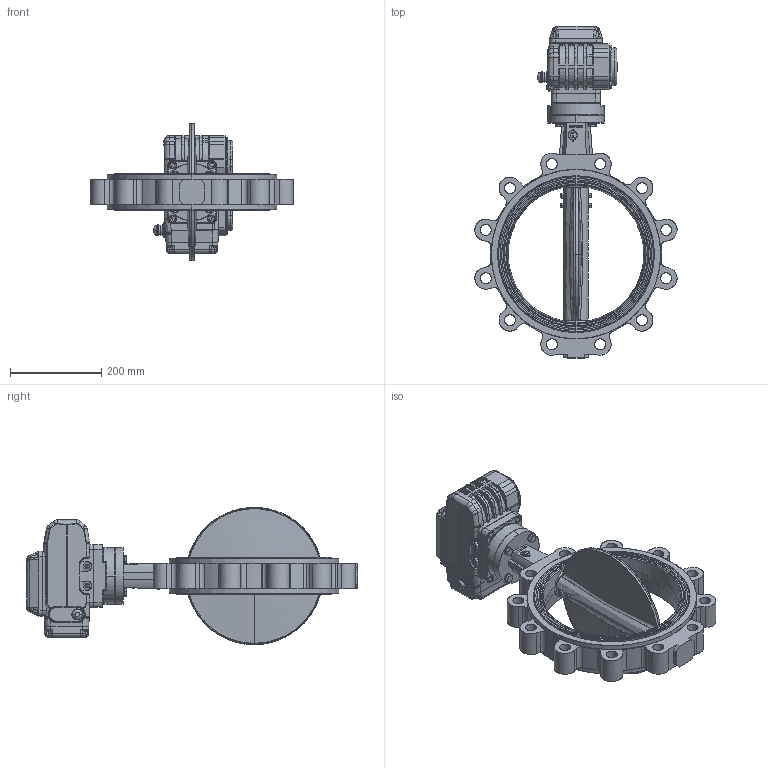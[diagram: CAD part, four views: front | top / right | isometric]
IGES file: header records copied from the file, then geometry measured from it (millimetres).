
Start section: SolidWorks IGES file using analytic representation for surfaces
Global section: file name: H:\BE FABRICATION\BE SERIE\VP\VP SERIE\F072 VPG\plan 3D\VPG-N04\LUG\DN300\PN16\VPG464X-NX4XX0300.igs; native system: SolidWorks 2020; preprocessor: SolidWorks 2020; author: k.gigout; date: 220706.095256; units: millimetre
Bounding box: 444.03 x 729 x 301.47 mm (x, y, z)
Surface area: 856840.7 mm2 (no closed solid volume)
Topology: 0 solids, 0 shells, 1174 faces, 23585 edges, 23562 vertices
Faces by surface type: bspline 679, revolution 495
